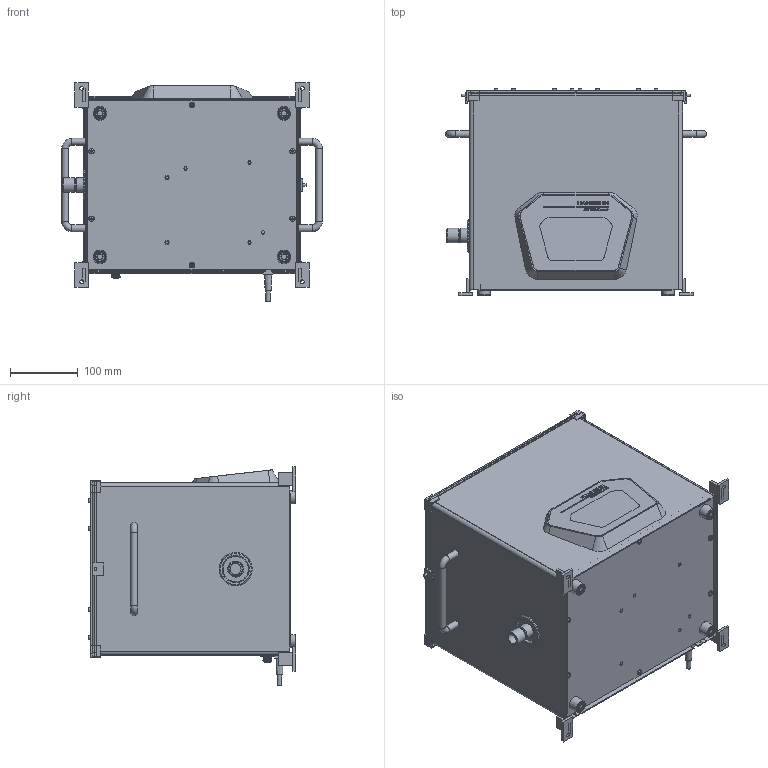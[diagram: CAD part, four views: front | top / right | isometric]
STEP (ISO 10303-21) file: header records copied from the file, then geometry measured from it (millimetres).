
FILE_DESCRIPTION(('Open CASCADE Model'),'2;1');
FILE_NAME('Open CASCADE Shape Model','2026-11-06T00:53:48',('Author'),( 'Open CASCADE'),'Open CASCADE STEP processor 7.8','Open CASCADE 7.8' ,'Unknown');
FILE_SCHEMA(('AUTOMOTIVE_DESIGN { 1 0 10303 214 1 1 1 1 }'));
Length unit declared in the file: millimetre
Products named in the file (100): Sonicator_Two_Racks_Preview_R02; Manufacturer_REFERENCE_shells; Left_independent_top_plate; Left_Guide_01; Left_M3_screw_envelope_00; Left_washer_envelope_00; Left_Guide_02; Left_M3_screw_envelope_01; Left_washer_envelope_01; Left_Guide_03; Left_M3_screw_envelope_02; Left_washer_envelope_02; Left_Guide_04; Left_M3_screw_envelope_03; Left_washer_envelope_03; Left_Guide_05; Left_M3_screw_envelope_04; Left_washer_envelope_04; Left_Guide_06; Left_M3_screw_envelope_05; Left_washer_envelope_05; Left_Guide_07; Left_M3_screw_envelope_06; Left_washer_envelope_06; Left_Guide_08; Left_M3_screw_envelope_07; Left_washer_envelope_07; Left_Vial_REFERENCE_00_00; Left_Vial_REFERENCE_00_01; Left_Vial_REFERENCE_00_02; Left_Vial_REFERENCE_00_03; Left_Vial_REFERENCE_01_00; Left_Vial_REFERENCE_01_01; Left_Vial_REFERENCE_01_02; Left_Vial_REFERENCE_01_03; Left_Vial_REFERENCE_02_00; Left_Vial_REFERENCE_02_01; Left_Vial_REFERENCE_02_02; Left_Vial_REFERENCE_02_03; Left_Vial_REFERENCE_03_00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
Assembly tree (99 placements, depth 2):
  Sonicator_Two_Racks_Preview_R02
    Manufacturer_REFERENCE_shells
    Left_independent_top_plate
    Left_Guide_01
    Left_M3_screw_envelope_00
    Left_washer_envelope_00
    Left_Guide_02
    Left_M3_screw_envelope_01
    Left_washer_envelope_01
    Left_Guide_03
    Left_M3_screw_envelope_02
    Left_washer_envelope_02
    Left_Guide_04
    Left_M3_screw_envelope_03
    Left_washer_envelope_03
    Left_Guide_05
    Left_M3_screw_envelope_04
    Left_washer_envelope_04
    Left_Guide_06
    Left_M3_screw_envelope_05
    Left_washer_envelope_05
    Left_Guide_07
    Left_M3_screw_envelope_06
    Left_washer_envelope_06
    Left_Guide_08
    Left_M3_screw_envelope_07
    Left_washer_envelope_07
    Left_Vial_REFERENCE_00_00
    Left_Vial_REFERENCE_00_01
    Left_Vial_REFERENCE_00_02
    Left_Vial_REFERENCE_00_03
    Left_Vial_REFERENCE_01_00
    Left_Vial_REFERENCE_01_01
    Left_Vial_REFERENCE_01_02
    Left_Vial_REFERENCE_01_03
    Left_Vial_REFERENCE_02_00
    Left_Vial_REFERENCE_02_01
    Left_Vial_REFERENCE_02_02
    Left_Vial_REFERENCE_02_03
    Left_Vial_REFERENCE_03_00
    Left_Vial_REFERENCE_03_01
    Left_Vial_REFERENCE_03_02
    Left_Vial_REFERENCE_03_03
    Left_Rack_REFERENCE_assumed_holes
    Left_locator_-1
    Left_locator_1
    Left_clamp_pad_CONCEPT
    Left_clamp_tab_CONCEPT
    Left_clamp_screw_CONCEPT
    Right_independent_top_plate
    Right_Guide_01
    Right_M3_screw_envelope_00
    Right_washer_envelope_00
    Right_Guide_02
    Right_M3_screw_envelope_01
    Right_washer_envelope_01
    Right_Guide_03
    Right_M3_screw_envelope_02
    Right_washer_envelope_02
    Right_Guide_04
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Bounding box: 385 x 306.45 x 322.49 mm (x, y, z)
Volume: 1352187 mm3; surface area: 1446500.5 mm2
Topology: 98 solids, 184 shells, 1126 faces, 3414 edges, 2608 vertices
Faces by surface type: plane 669, cylinder 301, cone 84, torus 47, bspline 17, sphere 8
Full cylindrical faces by diameter (mm): 2.5 x16, 3 x16, 3.2 x16, 4 x2, 5 x1, 5.5 x20, 6.5 x1, 7 x16, 8 x6, 9 x4, 10 x22, 13 x4, 14 x4, 16.1 x1, 16.6 x32, 17.2 x32, 18.5 x1, 21.3 x2, 49 x1
Entity records: 90637 total; most frequent: CARTESIAN_POINT 29213, DIRECTION 10640, LINE 5551, VECTOR 5551, ORIENTED_EDGE 5343, PCURVE 5343, DEFINITIONAL_REPRESENTATION 5343, EDGE_CURVE 3414
